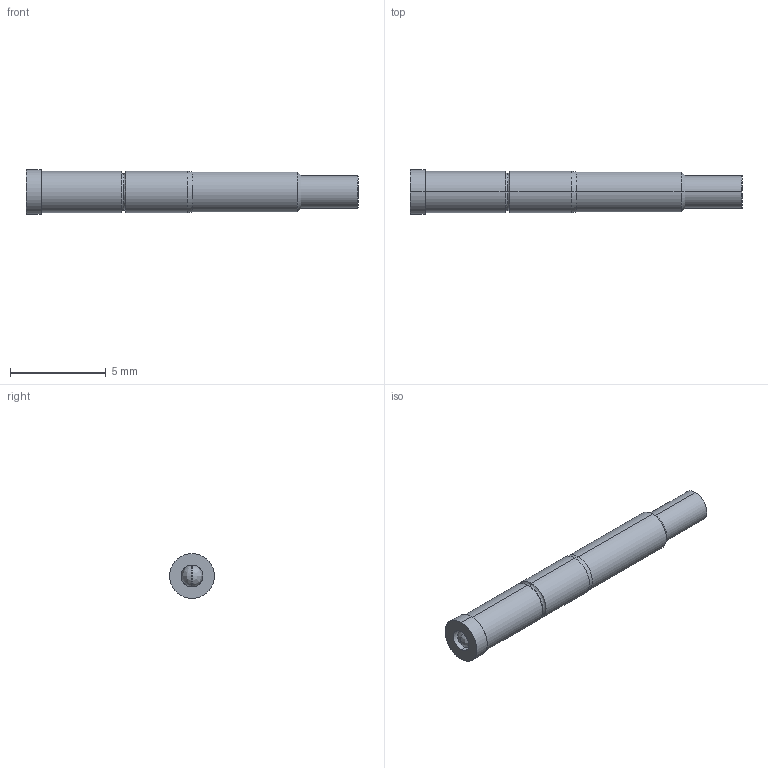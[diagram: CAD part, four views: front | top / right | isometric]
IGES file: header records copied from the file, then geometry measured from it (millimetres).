
Start section: SolidWorks IGES file using analytic representation for surfaces
Global section: file name: O:\PYLON\IGES FILES\F-S\F-S-R FULL.IGS; native system: SolidWorks 2015; preprocessor: SolidWorks 2015; author: kgolden; date: 171024.100955; units: inch
Bounding box: 17.3 x 2.34 x 2.34 mm (x, y, z)
Surface area: 136 mm2 (no closed solid volume)
Topology: 0 solids, 0 shells, 30 faces, 264 edges, 262 vertices
Faces by surface type: revolution 20, bspline 10
